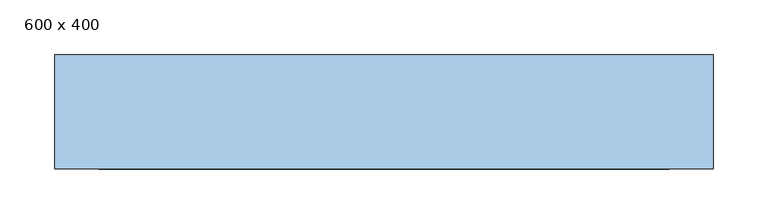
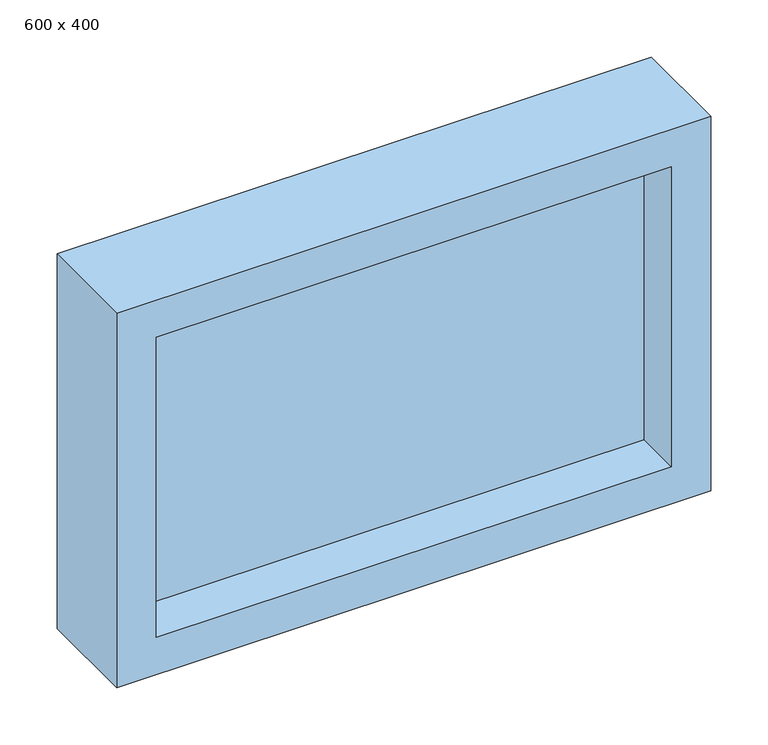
"""IFC4 building model written with IfcOpenShell, lengths in millimetres: window geometry, Window_Zeppelin-Rental-GmbH : 600 x 400."""

from ifc_helpers import new_model, si_unit, frame, origin, place, context, project, spatial, polyline, outline, extrude, source, transform, mapped, element, save


def window_600_x_400_23721c96(model_context):
    return source(origin(), model_context, "Body", "SweptSolid", [
        extrude(outline(polyline([(260.0, -5.0), (-260.0, -5.0), (-260.0, 5.0), (260.0, 5.0), (260.0, -5.0)])), frame((0.0, 0.0, 1651.0), z_axis=(0.0, 0.0, 1.0), x_axis=(1.0, 0.0, 0.0)), (0.0, 0.0, 1.0), 320.0),
        extrude(outline(polyline([(1611.0, 300.0), (2011.0, 300.0), (2011.0, -300.0), (1611.0, -300.0), (1611.0, 300.0)]), holes=[polyline([(1971.0, 260.0), (1651.0, 260.0), (1651.0, -260.0), (1971.0, -260.0), (1971.0, 260.0)])]), frame((0.0, -52.6676571, 0.0), z_axis=(0.0, 1.0, 0.0), x_axis=(0.0, 0.0, 1.0)), (0.0, 0.0, 1.0), 104.0),
    ])


if __name__ == "__main__":
    model = new_model("IFC4")
    model_context = context("Model", 3, world=origin())
    ifc_project = project(units=[si_unit("LENGTHUNIT", "METRE", prefix="MILLI")], contexts=[model_context])
    site = spatial("IfcSite", under=ifc_project)
    building = spatial("IfcBuilding", under=site)
    placement = place(None, origin())
    window_600_x_400_shape = window_600_x_400_23721c96(model_context)
    element("IfcWindow", 1, ObjectType="Window_Zeppelin-Rental-GmbH : 600 x 400", at=placement, inside=building, context=model_context, shape_type="MappedRepresentation", body=[
        mapped(window_600_x_400_shape, transform((0.0, 0.0, 0.0), x_axis=(1.0, 0.0, 0.0), y_axis=(0.0, 1.0, 0.0), z_axis=(0.0, 0.0, 1.0))),
    ])
    save(model, "model.ifc")
